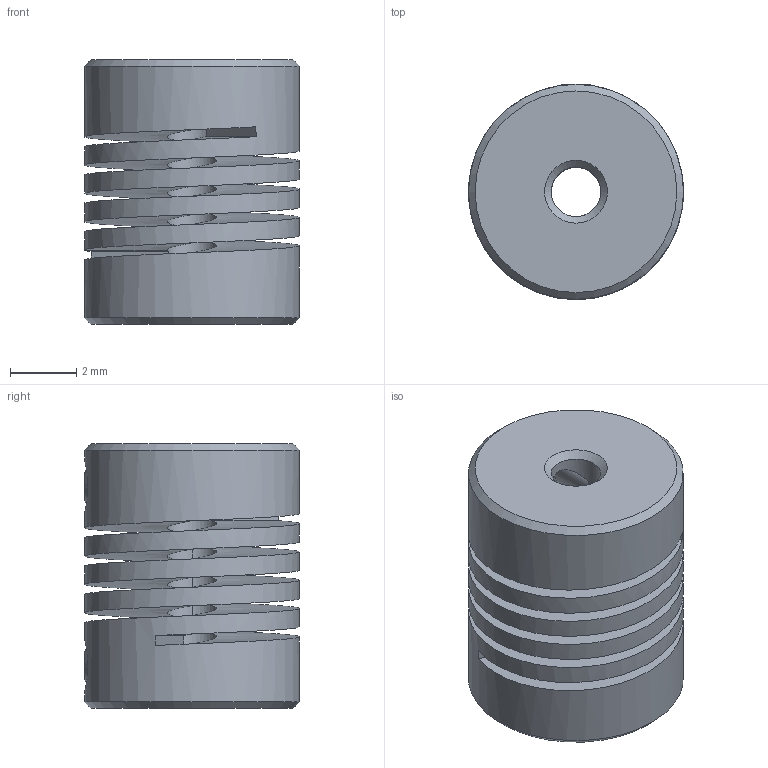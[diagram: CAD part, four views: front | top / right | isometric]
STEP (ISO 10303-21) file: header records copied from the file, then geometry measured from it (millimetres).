
FILE_DESCRIPTION(/* description */ (''),/* implementation_level */ '2;1');
FILE_NAME(/* name */ 'E:\ABP_bauteile\Wendelkupplungen\Wendelkupplung_WKAS_6508_1,5_1,5.stp',/* time_stamp */ '2015-03-05T15:52:23+01:00',/* author */ ('Rob'),/* organization */ (''),/* preprocessor_version */ 'ST-DEVELOPER v15.6',/* originating_system */ 'Autodesk Inventor 2015',/* authorisation */ '');
FILE_SCHEMA (('CONFIG_CONTROL_DESIGN'));
Length unit declared in the file: millimetre
Products named in the file (1): Bauteil7
Bounding box: 6.5 x 6.5 x 8 mm (x, y, z)
Volume: 204.2 mm3; surface area: 527.3 mm2
Topology: 1 solids, 1 shells, 61 faces, 156 edges, 97 vertices
Faces by surface type: plane 33, cone 12, cylinder 12, bspline 4
Full cylindrical faces by diameter (mm): 1.5 x4, 1.6 x4, 6.5 x4
Entity records: 13171 total; most frequent: CARTESIAN_POINT 12037, DIRECTION 215, ORIENTED_EDGE 210, EDGE_CURVE 105, AXIS2_PLACEMENT_3D 84, EDGE_LOOP 79, VERTEX_POINT 72, FACE_OUTER_BOUND 55
